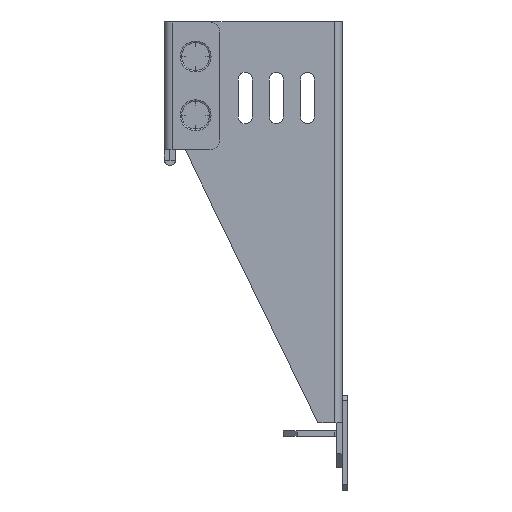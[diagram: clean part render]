
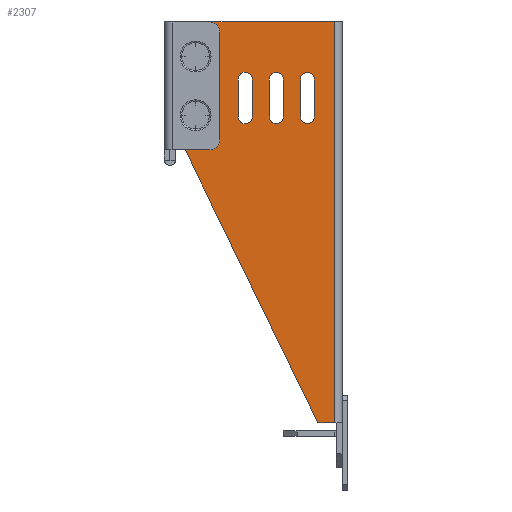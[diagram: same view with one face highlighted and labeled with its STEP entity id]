
A CAD part, left-side view. The second image highlights one B-rep face of the part: STEP entity #2307.
In plain terms, the highlighted planar face has unit normal (-1, 0, 0).
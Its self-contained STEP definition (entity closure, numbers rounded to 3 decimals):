
#485=DIRECTION('',(0.,1.,0.));
#486=VECTOR('',#485,46.2);
#487=CARTESIAN_POINT('',(-109.2,2.2,120.));
#488=LINE('',#487,#486);
#489=DIRECTION('',(0.,-1.,0.));
#490=VECTOR('',#489,4.8);
#491=CARTESIAN_POINT('',(-109.2,7.,4.));
#492=LINE('',#491,#490);
#493=DIRECTION('',(0.,-0.437,-0.899));
#494=VECTOR('',#493,90.074);
#495=CARTESIAN_POINT('',(-109.2,46.4,85.));
#496=LINE('',#495,#494);
#497=DIRECTION('',(0.,-1.,0.));
#498=VECTOR('',#497,2.);
#499=CARTESIAN_POINT('',(-109.2,48.4,85.));
#500=LINE('',#499,#498);
#501=DIRECTION('',(0.,0.,-1.));
#502=VECTOR('',#501,35.);
#503=CARTESIAN_POINT('',(-109.2,48.4,120.));
#504=LINE('',#503,#502);
#505=CARTESIAN_POINT('',(-109.2,10.,92.5));
#506=DIRECTION('',(-1.,0.,0.));
#507=DIRECTION('',(0.,1.,0.));
#508=AXIS2_PLACEMENT_3D('',#505,#506,#507);
#510=DIRECTION('',(0.,0.,-1.));
#511=VECTOR('',#510,11.);
#512=CARTESIAN_POINT('',(-109.2,8.,103.5));
#513=LINE('',#512,#511);
#514=CARTESIAN_POINT('',(-109.2,10.,103.5));
#515=DIRECTION('',(-1.,0.,0.));
#516=DIRECTION('',(0.,-1.,0.));
#517=AXIS2_PLACEMENT_3D('',#514,#515,#516);
#519=DIRECTION('',(0.,0.,1.));
#520=VECTOR('',#519,11.);
#521=CARTESIAN_POINT('',(-109.2,12.,92.5));
#522=LINE('',#521,#520);
#523=CARTESIAN_POINT('',(-109.2,19.,92.5));
#524=DIRECTION('',(-1.,0.,0.));
#525=DIRECTION('',(0.,1.,0.));
#526=AXIS2_PLACEMENT_3D('',#523,#524,#525);
#528=DIRECTION('',(0.,0.,-1.));
#529=VECTOR('',#528,11.);
#530=CARTESIAN_POINT('',(-109.2,17.,103.5));
#531=LINE('',#530,#529);
#532=CARTESIAN_POINT('',(-109.2,19.,103.5));
#533=DIRECTION('',(-1.,0.,0.));
#534=DIRECTION('',(0.,-1.,0.));
#535=AXIS2_PLACEMENT_3D('',#532,#533,#534);
#537=DIRECTION('',(0.,0.,1.));
#538=VECTOR('',#537,11.);
#539=CARTESIAN_POINT('',(-109.2,21.,92.5));
#540=LINE('',#539,#538);
#541=CARTESIAN_POINT('',(-109.2,28.,92.5));
#542=DIRECTION('',(-1.,0.,0.));
#543=DIRECTION('',(0.,1.,0.));
#544=AXIS2_PLACEMENT_3D('',#541,#542,#543);
#546=DIRECTION('',(0.,0.,-1.));
#547=VECTOR('',#546,11.);
#548=CARTESIAN_POINT('',(-109.2,26.,103.5));
#549=LINE('',#548,#547);
#550=CARTESIAN_POINT('',(-109.2,28.,103.5));
#551=DIRECTION('',(-1.,0.,0.));
#552=DIRECTION('',(0.,-1.,0.));
#553=AXIS2_PLACEMENT_3D('',#550,#551,#552);
#555=DIRECTION('',(0.,0.,1.));
#556=VECTOR('',#555,11.);
#557=CARTESIAN_POINT('',(-109.2,30.,92.5));
#558=LINE('',#557,#556);
#559=CARTESIAN_POINT('',(-109.2,42.4,110.));
#560=DIRECTION('',(1.,0.,0.));
#561=DIRECTION('',(0.,0.,1.));
#562=AXIS2_PLACEMENT_3D('',#559,#560,#561);
#564=CARTESIAN_POINT('',(-109.2,42.4,110.));
#565=DIRECTION('',(1.,0.,0.));
#566=DIRECTION('',(0.,0.,-1.));
#567=AXIS2_PLACEMENT_3D('',#564,#565,#566);
#569=CARTESIAN_POINT('',(-109.2,42.4,93.));
#570=DIRECTION('',(1.,0.,0.));
#571=DIRECTION('',(0.,0.,1.));
#572=AXIS2_PLACEMENT_3D('',#569,#570,#571);
#574=CARTESIAN_POINT('',(-109.2,42.4,93.));
#575=DIRECTION('',(1.,0.,0.));
#576=DIRECTION('',(0.,0.,-1.));
#577=AXIS2_PLACEMENT_3D('',#574,#575,#576);
#579=DIRECTION('',(0.,0.,1.));
#580=VECTOR('',#579,116.);
#581=CARTESIAN_POINT('',(-109.2,2.2,4.));
#582=LINE('',#581,#580);
#1337=CARTESIAN_POINT('',(-109.2,2.2,120.));
#1338=CARTESIAN_POINT('',(-109.2,48.4,120.));
#1339=VERTEX_POINT('',#1337);
#1340=VERTEX_POINT('',#1338);
#1341=CARTESIAN_POINT('',(-109.2,48.4,85.));
#1342=VERTEX_POINT('',#1341);
#1409=CARTESIAN_POINT('',(-109.2,12.,92.5));
#1410=CARTESIAN_POINT('',(-109.2,8.,92.5));
#1411=VERTEX_POINT('',#1409);
#1412=VERTEX_POINT('',#1410);
#1413=CARTESIAN_POINT('',(-109.2,12.,103.5));
#1414=VERTEX_POINT('',#1413);
#1415=CARTESIAN_POINT('',(-109.2,8.,103.5));
#1416=VERTEX_POINT('',#1415);
#1425=CARTESIAN_POINT('',(-109.2,21.,92.5));
#1426=CARTESIAN_POINT('',(-109.2,17.,92.5));
#1427=VERTEX_POINT('',#1425);
#1428=VERTEX_POINT('',#1426);
#1429=CARTESIAN_POINT('',(-109.2,21.,103.5));
#1430=VERTEX_POINT('',#1429);
#1431=CARTESIAN_POINT('',(-109.2,17.,103.5));
#1432=VERTEX_POINT('',#1431);
#1473=CARTESIAN_POINT('',(-109.2,7.,4.));
#1474=CARTESIAN_POINT('',(-109.2,2.2,4.));
#1475=VERTEX_POINT('',#1473);
#1476=VERTEX_POINT('',#1474);
#1489=CARTESIAN_POINT('',(-109.2,42.4,112.05));
#1490=CARTESIAN_POINT('',(-109.2,42.4,107.95));
#1491=VERTEX_POINT('',#1489);
#1492=VERTEX_POINT('',#1490);
#1497=CARTESIAN_POINT('',(-109.2,46.4,85.));
#1498=VERTEX_POINT('',#1497);
#1593=CARTESIAN_POINT('',(-109.2,30.,92.5));
#1594=CARTESIAN_POINT('',(-109.2,26.,92.5));
#1595=VERTEX_POINT('',#1593);
#1596=VERTEX_POINT('',#1594);
#1597=CARTESIAN_POINT('',(-109.2,30.,103.5));
#1598=VERTEX_POINT('',#1597);
#1599=CARTESIAN_POINT('',(-109.2,26.,103.5));
#1600=VERTEX_POINT('',#1599);
#1625=CARTESIAN_POINT('',(-109.2,42.4,95.05));
#1626=CARTESIAN_POINT('',(-109.2,42.4,90.95));
#1627=VERTEX_POINT('',#1625);
#1628=VERTEX_POINT('',#1626);
#2247=CARTESIAN_POINT('',(-109.2,0.,31.562));
#2248=DIRECTION('',(-1.,0.,0.));
#2249=DIRECTION('',(0.,0.,1.));
#2250=AXIS2_PLACEMENT_3D('',#2247,#2248,#2249);
#2251=PLANE('',#2250);
#2252=ORIENTED_EDGE('',*,*,#2237,.F.);
#2254=ORIENTED_EDGE('',*,*,#2253,.F.);
#2256=ORIENTED_EDGE('',*,*,#2255,.F.);
#2258=ORIENTED_EDGE('',*,*,#2257,.F.);
#2260=ORIENTED_EDGE('',*,*,#2259,.F.);
#2262=ORIENTED_EDGE('',*,*,#2261,.F.);
#2263=EDGE_LOOP('',(#2252,#2254,#2256,#2258,#2260,#2262));
#2264=FACE_OUTER_BOUND('',#2263,.F.);
#2266=ORIENTED_EDGE('',*,*,#2265,.T.);
#2268=ORIENTED_EDGE('',*,*,#2267,.F.);
#2270=ORIENTED_EDGE('',*,*,#2269,.T.);
#2272=ORIENTED_EDGE('',*,*,#2271,.F.);
#2273=EDGE_LOOP('',(#2266,#2268,#2270,#2272));
#2274=FACE_BOUND('',#2273,.F.);
#2276=ORIENTED_EDGE('',*,*,#2275,.T.);
#2278=ORIENTED_EDGE('',*,*,#2277,.F.);
#2280=ORIENTED_EDGE('',*,*,#2279,.T.);
#2282=ORIENTED_EDGE('',*,*,#2281,.F.);
#2283=EDGE_LOOP('',(#2276,#2278,#2280,#2282));
#2284=FACE_BOUND('',#2283,.F.);
#2286=ORIENTED_EDGE('',*,*,#2285,.T.);
#2288=ORIENTED_EDGE('',*,*,#2287,.F.);
#2290=ORIENTED_EDGE('',*,*,#2289,.T.);
#2292=ORIENTED_EDGE('',*,*,#2291,.F.);
#2293=EDGE_LOOP('',(#2286,#2288,#2290,#2292));
#2294=FACE_BOUND('',#2293,.F.);
#2296=ORIENTED_EDGE('',*,*,#2295,.F.);
#2298=ORIENTED_EDGE('',*,*,#2297,.F.);
#2299=EDGE_LOOP('',(#2296,#2298));
#2300=FACE_BOUND('',#2299,.F.);
#2302=ORIENTED_EDGE('',*,*,#2301,.F.);
#2304=ORIENTED_EDGE('',*,*,#2303,.F.);
#2305=EDGE_LOOP('',(#2302,#2304));
#2306=FACE_BOUND('',#2305,.F.);
#2307=ADVANCED_FACE('',(#2264,#2274,#2284,#2294,#2300,#2306),#2251,.T.);
#509=CIRCLE('',#508,2.);
#518=CIRCLE('',#517,2.);
#527=CIRCLE('',#526,2.);
#536=CIRCLE('',#535,2.);
#545=CIRCLE('',#544,2.);
#554=CIRCLE('',#553,2.);
#563=CIRCLE('',#562,2.05);
#568=CIRCLE('',#567,2.05);
#573=CIRCLE('',#572,2.05);
#578=CIRCLE('',#577,2.05);
#2237=EDGE_CURVE('',#1339,#1340,#488,.T.);
#2253=EDGE_CURVE('',#1476,#1339,#582,.T.);
#2255=EDGE_CURVE('',#1475,#1476,#492,.T.);
#2257=EDGE_CURVE('',#1498,#1475,#496,.T.);
#2259=EDGE_CURVE('',#1342,#1498,#500,.T.);
#2261=EDGE_CURVE('',#1340,#1342,#504,.T.);
#2265=EDGE_CURVE('',#1411,#1412,#509,.T.);
#2267=EDGE_CURVE('',#1416,#1412,#513,.T.);
#2269=EDGE_CURVE('',#1416,#1414,#518,.T.);
#2271=EDGE_CURVE('',#1411,#1414,#522,.T.);
#2275=EDGE_CURVE('',#1427,#1428,#527,.T.);
#2277=EDGE_CURVE('',#1432,#1428,#531,.T.);
#2279=EDGE_CURVE('',#1432,#1430,#536,.T.);
#2281=EDGE_CURVE('',#1427,#1430,#540,.T.);
#2285=EDGE_CURVE('',#1595,#1596,#545,.T.);
#2287=EDGE_CURVE('',#1600,#1596,#549,.T.);
#2289=EDGE_CURVE('',#1600,#1598,#554,.T.);
#2291=EDGE_CURVE('',#1595,#1598,#558,.T.);
#2295=EDGE_CURVE('',#1491,#1492,#563,.T.);
#2297=EDGE_CURVE('',#1492,#1491,#568,.T.);
#2301=EDGE_CURVE('',#1627,#1628,#573,.T.);
#2303=EDGE_CURVE('',#1628,#1627,#578,.T.);
